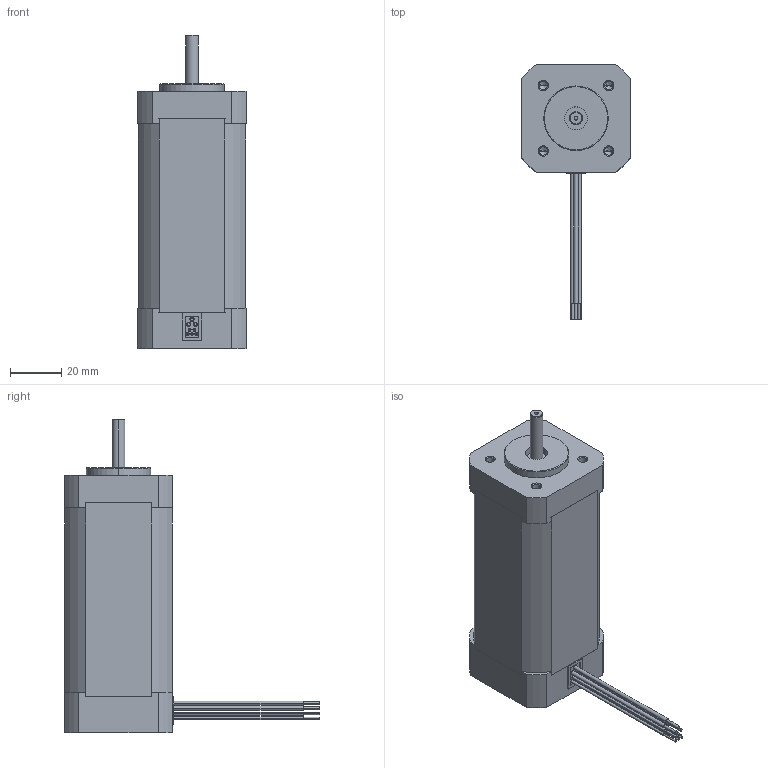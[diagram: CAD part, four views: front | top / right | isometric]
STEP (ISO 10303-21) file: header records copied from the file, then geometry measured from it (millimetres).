
FILE_DESCRIPTION (( 'STEP AP214' ), '1' );
FILE_NAME ('BLY174S.STEP', '2011-11-22T17:04:16', ( '' ), ( '' ), 'SwSTEP 2.0', 'SolidWorks 2011', '' );
FILE_SCHEMA (( 'AUTOMOTIVE_DESIGN' ));
Length unit declared in the file: inch
Products named in the file (1): BLY174S
Bounding box: 42.01 x 99.16 x 121.84 mm (x, y, z)
Volume: 168136.3 mm3; surface area: 22228.4 mm2
Topology: 1 solids, 1 shells, 228 faces, 542 edges, 350 vertices
Faces by surface type: plane 116, cylinder 90, cone 22
Entity records: 8265 total; most frequent: DIRECTION 1186, CARTESIAN_POINT 1113, ORIENTED_EDGE 1068, EDGE_CURVE 534, AXIS2_PLACEMENT_3D 423, VERTEX_POINT 350, LINE 340, VECTOR 340
